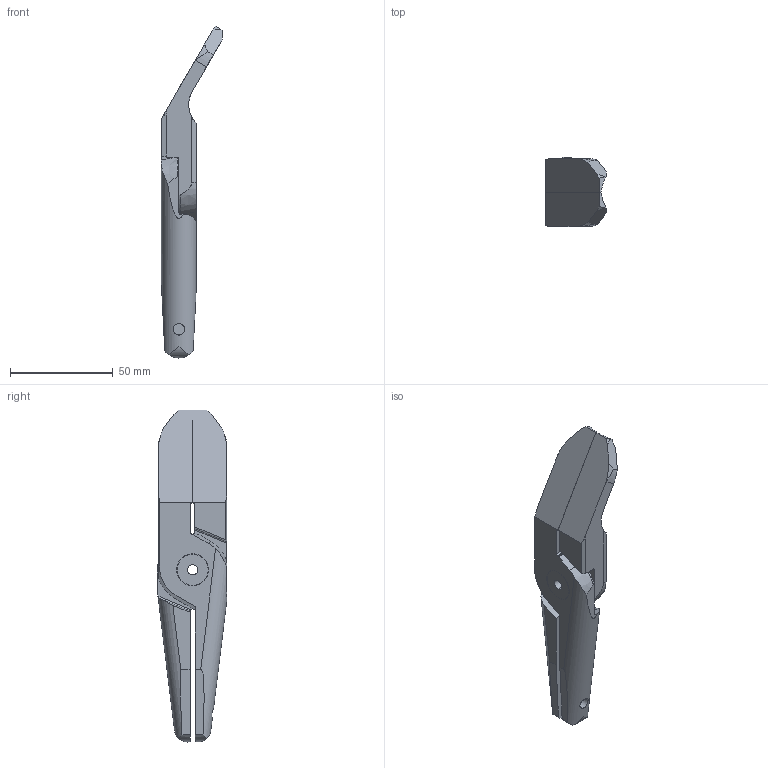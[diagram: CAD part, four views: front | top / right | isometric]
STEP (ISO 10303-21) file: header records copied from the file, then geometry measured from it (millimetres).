
FILE_DESCRIPTION (( 'STEP AP214' ), '1' );
FILE_NAME ('1097.STEP', '2012-03-27T19:31:31', ( 'User' ), ( 'EMI' ), 'SwSTEP 2.0', 'SolidWorks 2009', '' );
FILE_SCHEMA (( 'AUTOMOTIVE_DESIGN' ));
Length unit declared in the file: millimetre
Products named in the file (1): 1097
Bounding box: 29.71 x 33.66 x 161.6 mm (x, y, z)
Volume: 48461.4 mm3; surface area: 20088.9 mm2
Topology: 3 solids, 3 shells, 148 faces, 419 edges, 275 vertices
Faces by surface type: plane 73, cylinder 48, cone 21, bspline 4, torus 2
Entity records: 5450 total; most frequent: CARTESIAN_POINT 1819, ORIENTED_EDGE 828, DIRECTION 658, EDGE_CURVE 414, VERTEX_POINT 275, AXIS2_PLACEMENT_3D 221, LINE 216, VECTOR 216
